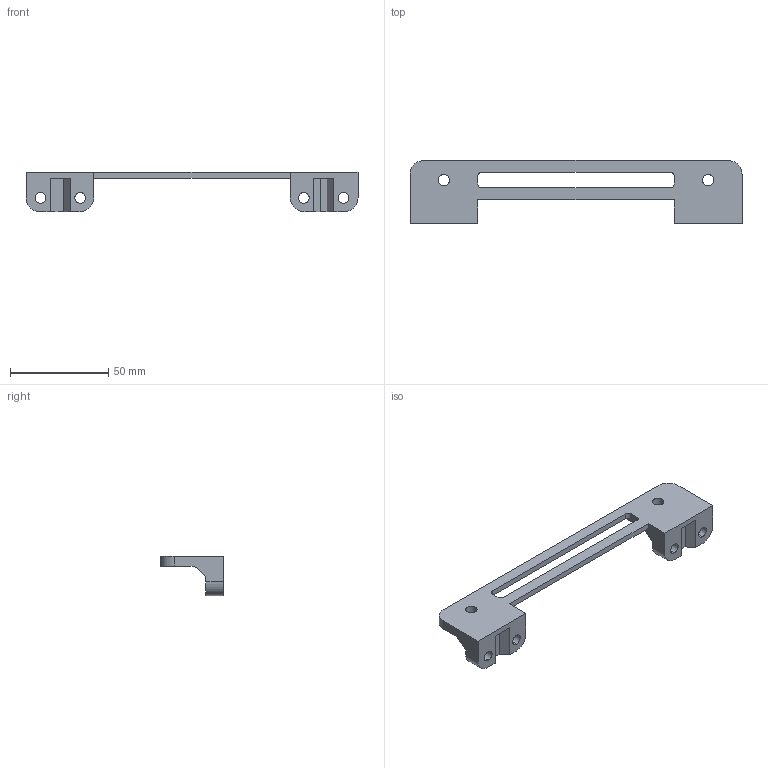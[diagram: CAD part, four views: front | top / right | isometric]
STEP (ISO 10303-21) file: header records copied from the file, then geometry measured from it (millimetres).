
FILE_DESCRIPTION (( 'STEP AP203' ), '1' );
FILE_NAME ('Y ROD MOUNTS.STEP', '2012-08-20T19:23:21', ( '' ), ( '' ), 'SwSTEP 2.0', 'SolidWorks 2012', '' );
FILE_SCHEMA (( 'CONFIG_CONTROL_DESIGN' ));
Length unit declared in the file: millimetre
Products named in the file (1): Y ROD MOUNTS
Bounding box: 169 x 32.05 x 20 mm (x, y, z)
Volume: 22039.1 mm3; surface area: 12227.7 mm2
Topology: 1 solids, 1 shells, 81 faces, 240 edges, 160 vertices
Faces by surface type: plane 57, cylinder 24
Entity records: 2807 total; most frequent: CARTESIAN_POINT 482, ORIENTED_EDGE 480, DIRECTION 452, EDGE_CURVE 240, LINE 192, VECTOR 192, VERTEX_POINT 160, AXIS2_PLACEMENT_3D 130
